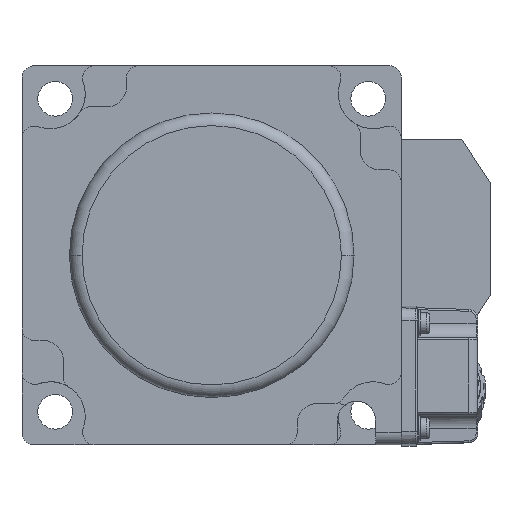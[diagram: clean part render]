
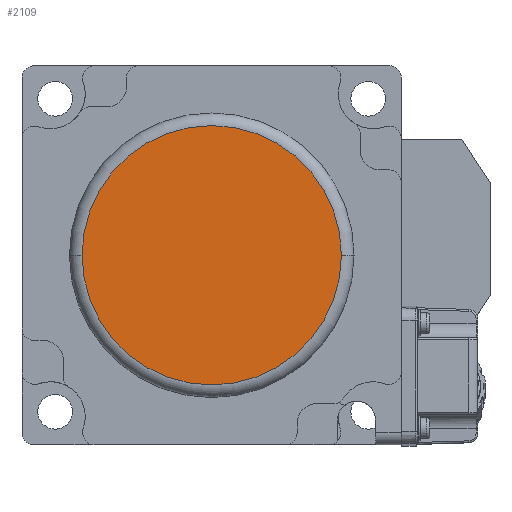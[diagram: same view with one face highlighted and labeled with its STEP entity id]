
A CAD part, left-side view. The second image highlights one B-rep face of the part: STEP entity #2109.
In plain terms, the highlighted planar face has unit normal (-1, 0, 0) as drawn and (0, 0, -1) by its records, which use the part's own axes.
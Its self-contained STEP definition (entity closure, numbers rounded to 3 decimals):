
#2010=CARTESIAN_POINT('',(0.,0.,-18.8));
#2011=DIRECTION('',(0.,0.,-1.));
#2012=DIRECTION('',(1.,0.,0.));
#2013=AXIS2_PLACEMENT_3D('',#2010,#2011,#2012);
#2015=CARTESIAN_POINT('',(0.,0.,-18.8));
#2016=DIRECTION('',(0.,0.,-1.));
#2017=DIRECTION('',(-1.,0.,0.));
#2018=AXIS2_PLACEMENT_3D('',#2015,#2016,#2017);
#2028=CARTESIAN_POINT('',(-20.5,0.,-18.8));
#2029=VERTEX_POINT('',#2028);
#2030=CARTESIAN_POINT('',(20.5,0.,-18.8));
#2031=VERTEX_POINT('',#2030);
#2100=CARTESIAN_POINT('',(-6.029,0.,-18.8));
#2101=DIRECTION('',(0.,0.,-1.));
#2102=DIRECTION('',(1.,0.,0.));
#2103=AXIS2_PLACEMENT_3D('',#2100,#2101,#2102);
#2104=PLANE('',#2103);
#2105=ORIENTED_EDGE('',*,*,#2094,.F.);
#2106=ORIENTED_EDGE('',*,*,#2080,.F.);
#2107=EDGE_LOOP('',(#2105,#2106));
#2108=FACE_OUTER_BOUND('',#2107,.F.);
#2109=ADVANCED_FACE('',(#2108),#2104,.T.);
#2014=CIRCLE('',#2013,20.5);
#2019=CIRCLE('',#2018,20.5);
#2080=EDGE_CURVE('',#2029,#2031,#2019,.T.);
#2094=EDGE_CURVE('',#2031,#2029,#2014,.T.);
